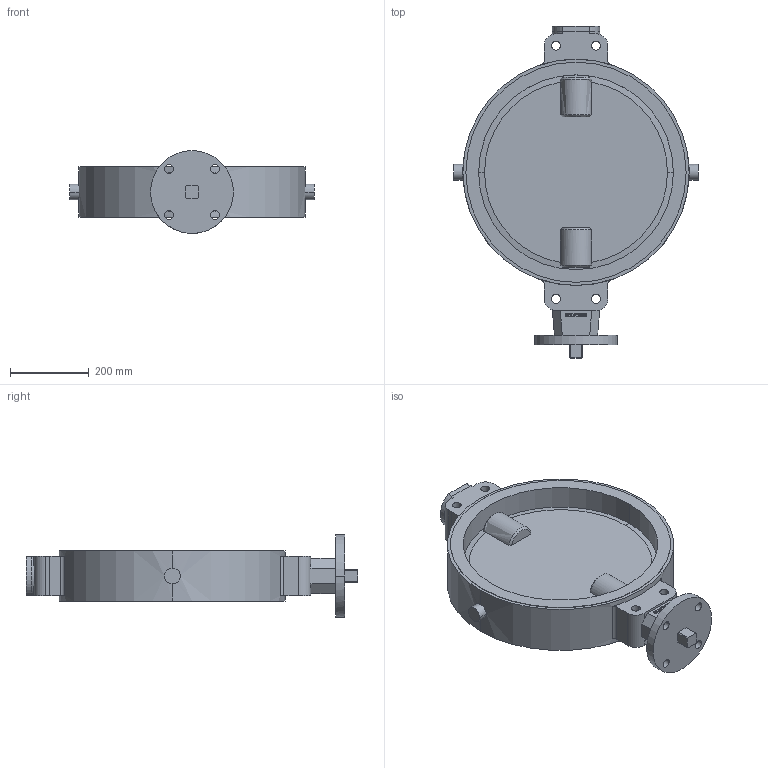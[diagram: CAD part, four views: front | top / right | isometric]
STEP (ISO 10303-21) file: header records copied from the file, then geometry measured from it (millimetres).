
FILE_DESCRIPTION((''),'2;1');
FILE_NAME('KL000111.stp','2007-11-19T12:01:49',(''),(''),'Mechanical Desktop 2008','Mechanical Desktop 2008',', , ');
FILE_SCHEMA(('AUTOMOTIVE_DESIGN { 1 2 10303 214 1 1 1 1 }'));
Length unit declared in the file: millimetre
Products named in the file (1): KL000111A
Bounding box: 620 x 842 x 210 mm (x, y, z)
Volume: 15598820.9 mm3; surface area: 1680769.8 mm2
Topology: 20 solids, 20 shells, 352 faces, 927 edges, 617 vertices
Faces by surface type: plane 199, cylinder 128, bspline 17, cone 8
Entity records: 11414 total; most frequent: CARTESIAN_POINT 2479, ORIENTED_EDGE 1854, DIRECTION 1834, EDGE_CURVE 927, AXIS2_PLACEMENT_3D 620, VERTEX_POINT 617, VECTOR 594, LINE 594
